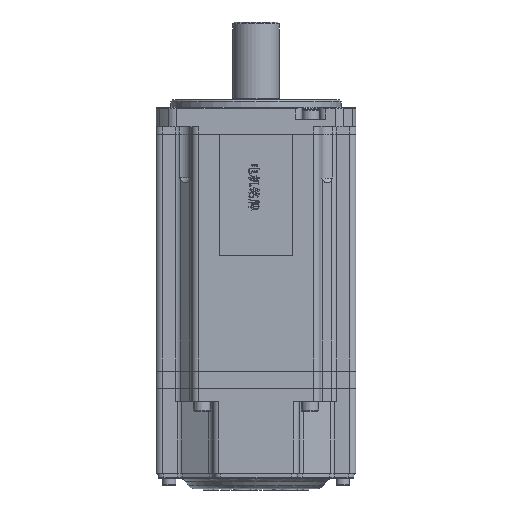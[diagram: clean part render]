
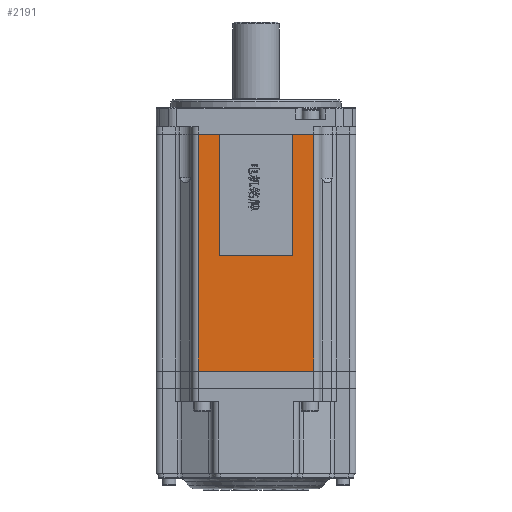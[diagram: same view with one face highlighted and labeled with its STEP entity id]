
A CAD part, front view. The second image highlights one B-rep face of the part: STEP entity #2191.
In plain terms, the highlighted planar face has unit normal (0, -1, 0).
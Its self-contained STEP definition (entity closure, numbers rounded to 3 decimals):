
#2191 = ADVANCED_FACE ( 'NONE', ( #81641 ), #42412, .F. ) ;
#6135 = EDGE_CURVE ( 'NONE', #65473, #11665, #70086, .T. ) ;
#6707 = EDGE_CURVE ( 'NONE', #72001, #46226, #73327, .T. ) ;
#7918 = VECTOR ( 'NONE', #43883, 1000. ) ;
#9091 = CARTESIAN_POINT ( 'NONE',  ( 15., -41., 47.2 ) ) ;
#9929 = VECTOR ( 'NONE', #15802, 1000. ) ;
#10073 = EDGE_LOOP ( 'NONE', ( #39881, #91191, #43195, #18344, #54105, #52089, #57404, #53879 ) ) ;
#11665 = VERTEX_POINT ( 'NONE', #79889 ) ;
#12904 = DIRECTION ( 'NONE',  ( 0., 0., 1. ) ) ;
#15802 = DIRECTION ( 'NONE',  ( -1., 0., 0. ) ) ;
#17157 = VECTOR ( 'NONE', #37897, 1000. ) ;
#18344 = ORIENTED_EDGE ( 'NONE', *, *, #33495, .F. ) ;
#19100 = VECTOR ( 'NONE', #75074, 1000. ) ;
#20509 = CARTESIAN_POINT ( 'NONE',  ( -23.75, -41., 97.2 ) ) ;
#25825 = CARTESIAN_POINT ( 'NONE',  ( 15., -41., 97.2 ) ) ;
#29017 = DIRECTION ( 'NONE',  ( 0., 0., -1. ) ) ;
#33495 = EDGE_CURVE ( 'NONE', #84762, #65473, #34425, .T. ) ;
#33709 = EDGE_CURVE ( 'NONE', #76918, #67221, #48726, .T. ) ;
#33775 = VECTOR ( 'NONE', #43555, 1000. ) ;
#33780 = VERTEX_POINT ( 'NONE', #20509 ) ;
#34425 = LINE ( 'NONE', #82359, #68598 ) ;
#36118 = CARTESIAN_POINT ( 'NONE',  ( 23.75, -41., 0. ) ) ;
#37897 = DIRECTION ( 'NONE',  ( 1., 0., 0. ) ) ;
#38106 = CARTESIAN_POINT ( 'NONE',  ( -23.75, -41., 0. ) ) ;
#39881 = ORIENTED_EDGE ( 'NONE', *, *, #33709, .T. ) ;
#39954 = LINE ( 'NONE', #9091, #7918 ) ;
#39990 = CARTESIAN_POINT ( 'NONE',  ( -198.803, -41., 97.2 ) ) ;
#40276 = DIRECTION ( 'NONE',  ( -1., 0., 0. ) ) ;
#42412 = PLANE ( 'NONE',  #57891 ) ;
#43195 = ORIENTED_EDGE ( 'NONE', *, *, #6135, .F. ) ;
#43497 = VECTOR ( 'NONE', #29017, 1000. ) ;
#43555 = DIRECTION ( 'NONE',  ( 1., 0., 0. ) ) ;
#43883 = DIRECTION ( 'NONE',  ( 0., 0., 1. ) ) ;
#46226 = VERTEX_POINT ( 'NONE', #36118 ) ;
#46877 = LINE ( 'NONE', #70630, #43497 ) ;
#47090 = CARTESIAN_POINT ( 'NONE',  ( 23.75, -41., 1000. ) ) ;
#48613 = DIRECTION ( 'NONE',  ( 0., 1., 0. ) ) ;
#48726 = LINE ( 'NONE', #39990, #83954 ) ;
#48919 = CARTESIAN_POINT ( 'NONE',  ( -23.75, -41., 1000. ) ) ;
#50581 = EDGE_CURVE ( 'NONE', #33780, #72001, #46877, .T. ) ;
#51509 = EDGE_CURVE ( 'NONE', #84762, #33780, #83688, .T. ) ;
#52045 = CARTESIAN_POINT ( 'NONE',  ( -15., -41., 97.2 ) ) ;
#52089 = ORIENTED_EDGE ( 'NONE', *, *, #50581, .T. ) ;
#53879 = ORIENTED_EDGE ( 'NONE', *, *, #79837, .F. ) ;
#54105 = ORIENTED_EDGE ( 'NONE', *, *, #51509, .T. ) ;
#57404 = ORIENTED_EDGE ( 'NONE', *, *, #6707, .T. ) ;
#57716 = LINE ( 'NONE', #47090, #19100 ) ;
#57891 = AXIS2_PLACEMENT_3D ( 'NONE', #48919, #48613, #12904 ) ;
#61120 = CARTESIAN_POINT ( 'NONE',  ( 23.75, -41., 97.2 ) ) ;
#65473 = VERTEX_POINT ( 'NONE', #74003 ) ;
#67221 = VERTEX_POINT ( 'NONE', #25825 ) ;
#68598 = VECTOR ( 'NONE', #81154, 1000. ) ;
#68944 = EDGE_CURVE ( 'NONE', #11665, #67221, #39954, .T. ) ;
#70086 = LINE ( 'NONE', #72495, #33775 ) ;
#70630 = CARTESIAN_POINT ( 'NONE',  ( -23.75, -41., 1000. ) ) ;
#72001 = VERTEX_POINT ( 'NONE', #38106 ) ;
#72139 = CARTESIAN_POINT ( 'NONE',  ( -198.803, -41., 97.2 ) ) ;
#72495 = CARTESIAN_POINT ( 'NONE',  ( -15., -41., 47.2 ) ) ;
#73327 = LINE ( 'NONE', #80016, #17157 ) ;
#74003 = CARTESIAN_POINT ( 'NONE',  ( -15., -41., 47.2 ) ) ;
#75074 = DIRECTION ( 'NONE',  ( 0., 0., -1. ) ) ;
#76918 = VERTEX_POINT ( 'NONE', #61120 ) ;
#79837 = EDGE_CURVE ( 'NONE', #76918, #46226, #57716, .T. ) ;
#79889 = CARTESIAN_POINT ( 'NONE',  ( 15., -41., 47.2 ) ) ;
#80016 = CARTESIAN_POINT ( 'NONE',  ( -23.75, -41., 0. ) ) ;
#81154 = DIRECTION ( 'NONE',  ( 0., 0., -1. ) ) ;
#81641 = FACE_OUTER_BOUND ( 'NONE', #10073, .T. ) ;
#82359 = CARTESIAN_POINT ( 'NONE',  ( -15., -41., 47.2 ) ) ;
#83688 = LINE ( 'NONE', #72139, #9929 ) ;
#83954 = VECTOR ( 'NONE', #40276, 1000. ) ;
#84762 = VERTEX_POINT ( 'NONE', #52045 ) ;
#91191 = ORIENTED_EDGE ( 'NONE', *, *, #68944, .F. ) ;
